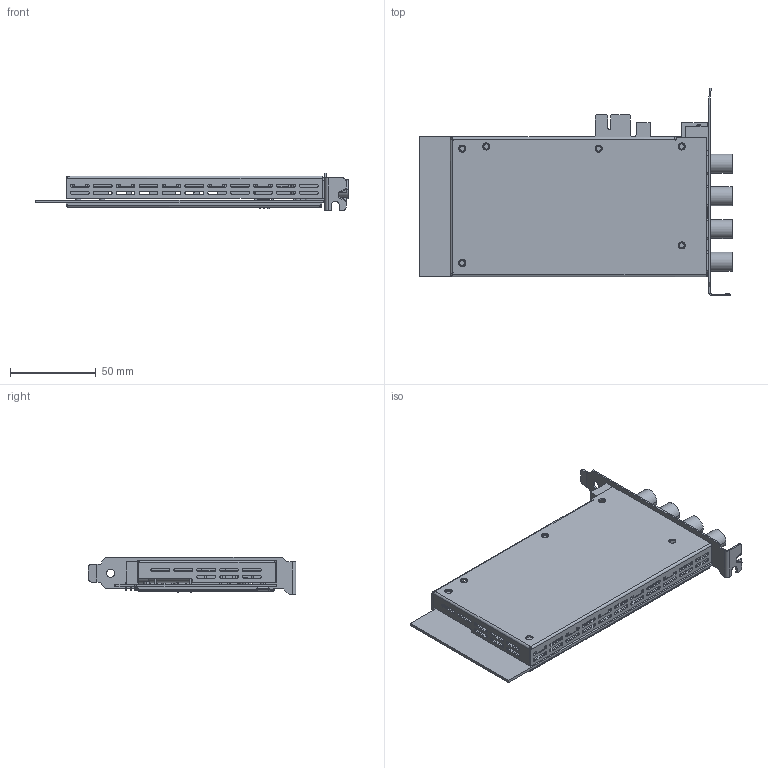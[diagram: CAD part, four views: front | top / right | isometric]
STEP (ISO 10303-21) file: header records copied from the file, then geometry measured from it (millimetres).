
FILE_DESCRIPTION((''),'2;1');
FILE_NAME('CU_PCIE-4065','2009-12-15T',('jjorden'),(''),'PRO/ENGINEER BY PARAMETRIC TECHNOLOGY CORPORATION, 2006080','PRO/ENGINEER BY PARAMETRIC TECHNOLOGY CORPORATION, 2006080','');
FILE_SCHEMA(('CONFIG_CONTROL_DESIGN'));
Length unit declared in the file: inch
Products named in the file (1): CU_PCIE-4065
Bounding box: 182.2 x 120.91 x 21.59 mm (x, y, z)
Volume: 76127.8 mm3; surface area: 148683.9 mm2
Topology: 20 solids, 21 shells, 1770 faces, 4468 edges, 2755 vertices
Faces by surface type: plane 1020, cylinder 505, extrusion 72, bspline 57, torus 46, cone 36, sphere 34
Entity records: 57962 total; most frequent: CARTESIAN_POINT 14954, ORIENTED_EDGE 8888, DIRECTION 8749, EDGE_CURVE 4444, AXIS2_PLACEMENT_3D 2937, VECTOR 2875, VERTEX_POINT 2869, LINE 2803
